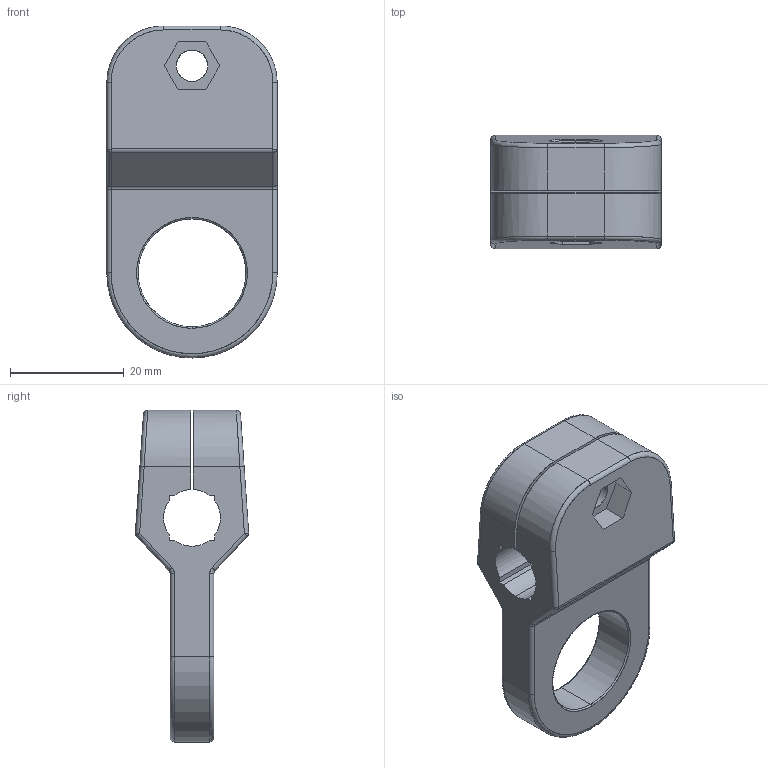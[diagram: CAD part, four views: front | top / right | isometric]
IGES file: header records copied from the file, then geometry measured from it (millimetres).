
Start section: SolidWorks IGES file using analytic representation for surfaces
Global section: file name: C:\Documents and Settings\ARGE\Desktop\yeni katalog tolgay düzenli\B kataloðu\FOTOSEL TUTMA MENGENE\export\214 153 010.IGS; native system: SolidWorks 2006 by SolidWorks Corporation; preprocessor: SolidWorks 2006 by SolidWorks Corporation; author: ARGE2; date: 060911.183728; units: millimetre
Bounding box: 30 x 19.96 x 58.5 mm (x, y, z)
Surface area: 6989.8 mm2 (no closed solid volume)
Topology: 0 solids, 0 shells, 86 faces, 896 edges, 896 vertices
Faces by surface type: bspline 44, revolution 42
